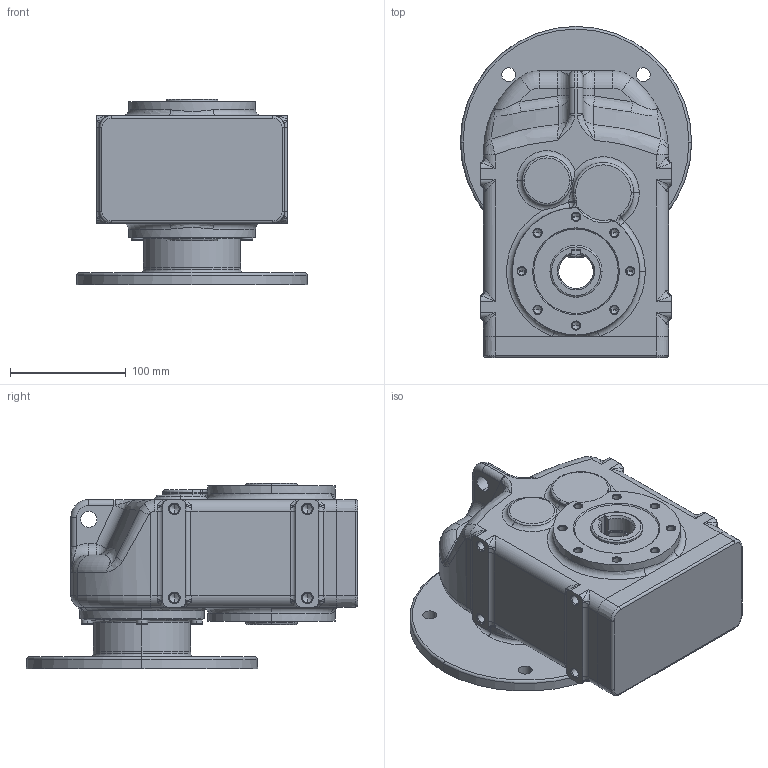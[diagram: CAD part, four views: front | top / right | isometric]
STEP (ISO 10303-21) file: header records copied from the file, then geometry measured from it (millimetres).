
FILE_DESCRIPTION (( 'STEP AP214' ), '1' );
FILE_NAME ('tnc12-f165-ap90.STEP', '2009-09-25T08:19:47', ( '' ), ( '' ), 'SwSTEP 2.0', 'SolidWorks 2003240', '' );
FILE_SCHEMA (( 'AUTOMOTIVE_DESIGN' ));
Length unit declared in the file: millimetre
Products named in the file (4): Pøíruba MRT80 kulatá _130-165-188; D6912_Šroub DIN 6912 - M6x20; Skøíò TNC1_Skøíò TNC12 AP90; tnc12-f165-ap90
Assembly tree (8 placements, depth 2):
  tnc12-f165-ap90
    D6912_Šroub DIN 6912 - M6x20  x6
    Pøíruba MRT80 kulatá _130-165-188
    Skøíò TNC1_Skøíò TNC12 AP90
Bounding box: 200 x 286.5 x 160 mm (x, y, z)
Volume: 3884344.3 mm3; surface area: 273029.9 mm2
Topology: 8 solids, 8 shells, 846 faces, 1887 edges, 1030 vertices
Faces by surface type: cylinder 245, cone 241, plane 163, torus 112, bspline 80, sphere 5
Entity records: 80622 total; most frequent: CARTESIAN_POINT 65028, DIRECTION 3330, ORIENTED_EDGE 2946, EDGE_CURVE 1473, AXIS2_PLACEMENT_3D 1408, VERTEX_POINT 875, CIRCLE 816, EDGE_LOOP 744
